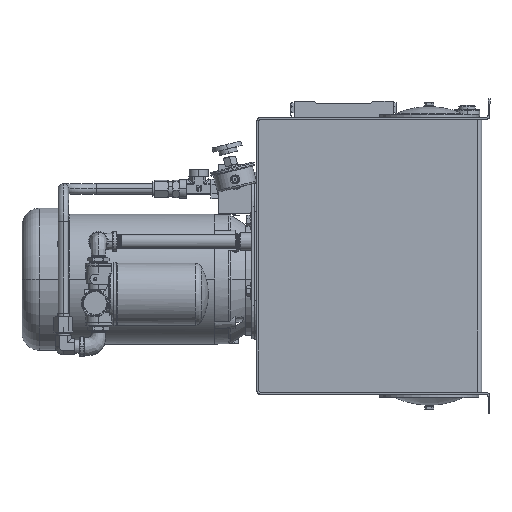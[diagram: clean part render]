
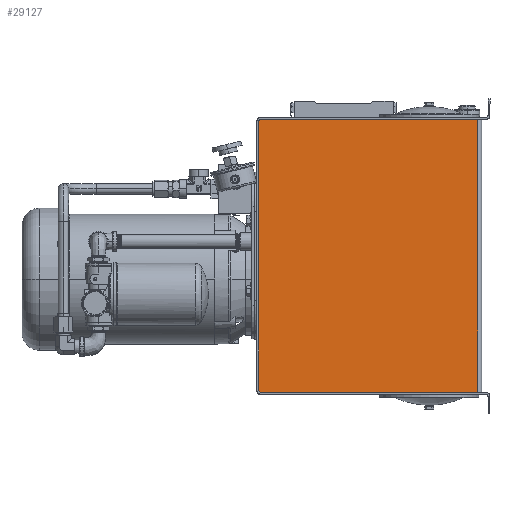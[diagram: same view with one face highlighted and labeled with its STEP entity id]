
A CAD part, top view. The second image highlights one B-rep face of the part: STEP entity #29127.
In plain terms, the highlighted planar face has unit normal (0, 0, 1).
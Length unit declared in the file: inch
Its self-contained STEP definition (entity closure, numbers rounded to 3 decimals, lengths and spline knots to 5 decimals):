
#7560 = DIRECTION ( 'NONE',  ( 0., 1., 0. ) ) ;
#9964 = LINE ( 'NONE', #68221, #91924 ) ;
#11678 = VERTEX_POINT ( 'NONE', #66451 ) ;
#15599 = LINE ( 'NONE', #73122, #63242 ) ;
#16090 = DIRECTION ( 'NONE',  ( 0., -1., 0. ) ) ;
#16672 = CARTESIAN_POINT ( 'NONE',  ( 4.71548, 16.50479, 17.6403 ) ) ;
#19938 = VERTEX_POINT ( 'NONE', #131064 ) ;
#20222 = CARTESIAN_POINT ( 'NONE',  ( 4.71548, -19676.66998, 17.6403 ) ) ;
#20700 = VERTEX_POINT ( 'NONE', #84821 ) ;
#22901 = EDGE_CURVE ( 'NONE', #20700, #44697, #9964, .T. ) ;
#23808 = PLANE ( 'NONE',  #121897 ) ;
#26426 = CIRCLE ( 'NONE', #129092, 0.125 ) ;
#27124 = CIRCLE ( 'NONE', #120293, 0.125 ) ;
#29127 = ADVANCED_FACE ( 'NONE', ( #126253 ), #23808, .F. ) ;
#29269 = LINE ( 'NONE', #20222, #37483 ) ;
#29548 = ORIENTED_EDGE ( 'NONE', *, *, #66825, .F. ) ;
#37372 = EDGE_CURVE ( 'NONE', #64848, #19938, #15599, .T. ) ;
#37483 = VECTOR ( 'NONE', #7560, 39.37008 ) ;
#37569 = CARTESIAN_POINT ( 'NONE',  ( 4.84048, 0.10899, 17.6403 ) ) ;
#38797 = ORIENTED_EDGE ( 'NONE', *, *, #22901, .F. ) ;
#40718 = CARTESIAN_POINT ( 'NONE',  ( 4.84048, 0.23399, 17.6403 ) ) ;
#40987 = LINE ( 'NONE', #97156, #104273 ) ;
#44110 = ORIENTED_EDGE ( 'NONE', *, *, #66053, .T. ) ;
#44697 = VERTEX_POINT ( 'NONE', #104508 ) ;
#48306 = EDGE_CURVE ( 'NONE', #11678, #64848, #27124, .T. ) ;
#53392 = DIRECTION ( 'NONE',  ( 0., 0., 1. ) ) ;
#60093 = EDGE_CURVE ( 'NONE', #91482, #20700, #26426, .T. ) ;
#63242 = VECTOR ( 'NONE', #106855, 39.37008 ) ;
#63461 = DIRECTION ( 'NONE',  ( 0., 1., 0. ) ) ;
#64848 = VERTEX_POINT ( 'NONE', #37569 ) ;
#66053 = EDGE_CURVE ( 'NONE', #19938, #44697, #40987, .T. ) ;
#66451 = CARTESIAN_POINT ( 'NONE',  ( 4.71548, 0.23399, 17.6403 ) ) ;
#66825 = EDGE_CURVE ( 'NONE', #11678, #91482, #29269, .T. ) ;
#68221 = CARTESIAN_POINT ( 'NONE',  ( 17.97008, 16.62979, 17.6403 ) ) ;
#69346 = DIRECTION ( 'NONE',  ( 0., -1., 0. ) ) ;
#73122 = CARTESIAN_POINT ( 'NONE',  ( 17.97008, 0.10899, 17.6403 ) ) ;
#81362 = CARTESIAN_POINT ( 'NONE',  ( 17.97008, -19676.66998, 17.6403 ) ) ;
#84821 = CARTESIAN_POINT ( 'NONE',  ( 4.84048, 16.62979, 17.6403 ) ) ;
#85962 = DIRECTION ( 'NONE',  ( 0., 0., -1. ) ) ;
#86667 = ORIENTED_EDGE ( 'NONE', *, *, #37372, .T. ) ;
#91482 = VERTEX_POINT ( 'NONE', #16672 ) ;
#91924 = VECTOR ( 'NONE', #147563, 39.37008 ) ;
#97156 = CARTESIAN_POINT ( 'NONE',  ( 17.97008, -19676.66998, 17.6403 ) ) ;
#102146 = EDGE_LOOP ( 'NONE', ( #29548, #109374, #86667, #44110, #38797, #145554 ) ) ;
#104273 = VECTOR ( 'NONE', #133732, 39.37008 ) ;
#104508 = CARTESIAN_POINT ( 'NONE',  ( 17.97008, 16.62979, 17.6403 ) ) ;
#106036 = DIRECTION ( 'NONE',  ( 0., 0., -1. ) ) ;
#106855 = DIRECTION ( 'NONE',  ( 1., 0., 0. ) ) ;
#107694 = CARTESIAN_POINT ( 'NONE',  ( 4.84048, 16.50479, 17.6403 ) ) ;
#109374 = ORIENTED_EDGE ( 'NONE', *, *, #48306, .T. ) ;
#120293 = AXIS2_PLACEMENT_3D ( 'NONE', #40718, #53392, #16090 ) ;
#121897 = AXIS2_PLACEMENT_3D ( 'NONE', #81362, #106036, #69346 ) ;
#126253 = FACE_OUTER_BOUND ( 'NONE', #102146, .T. ) ;
#129092 = AXIS2_PLACEMENT_3D ( 'NONE', #107694, #85962, #63461 ) ;
#131064 = CARTESIAN_POINT ( 'NONE',  ( 17.97008, 0.10899, 17.6403 ) ) ;
#133732 = DIRECTION ( 'NONE',  ( 0., 1., 0. ) ) ;
#145554 = ORIENTED_EDGE ( 'NONE', *, *, #60093, .F. ) ;
#147563 = DIRECTION ( 'NONE',  ( 1., 0., 0. ) ) ;
